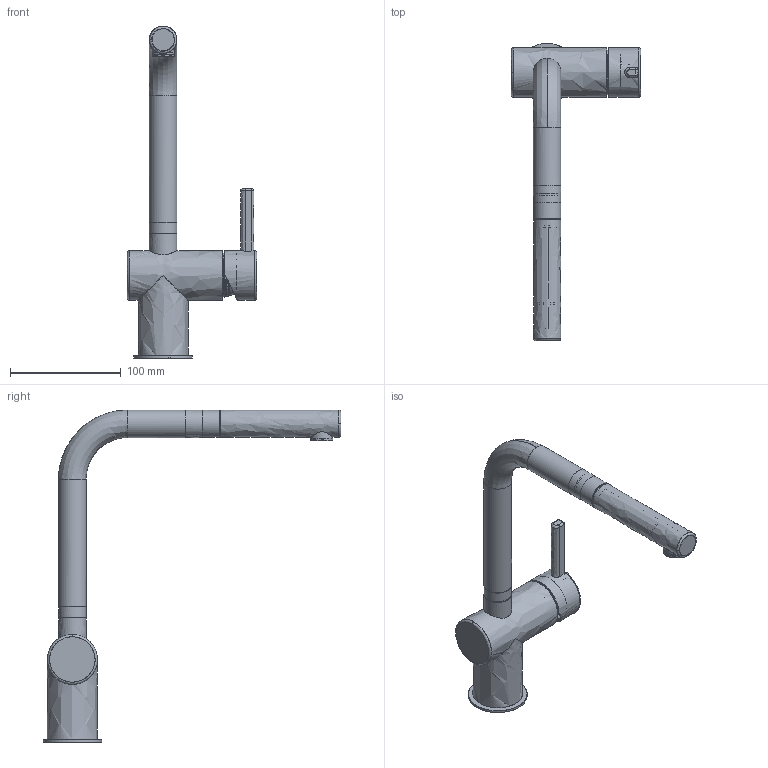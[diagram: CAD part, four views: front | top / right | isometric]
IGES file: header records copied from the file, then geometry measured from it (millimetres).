
Global section: file name: F:\_CONVERSIONE_CAD_2024_2025\03_3D kits new\08_Taps\Atlas Neo\3D001_Taps_Atlas-Neo_Pull-Out\3D001_Taps_Atlas-Neo_Pull-Out.igs; native system: Rhinoceros ( Jan  9 2024 ); preprocessor: Trout Lake IGES 012 Jan  9 2024; date: 240130.110808; units: millimetre
Bounding box: 117.13 x 269 x 299.7 mm (x, y, z)
Surface area: 164707.8 mm2 (no closed solid volume)
Topology: 0 solids, 0 shells, 1129 faces, 8275 edges, 8152 vertices
Faces by surface type: bspline 1129
